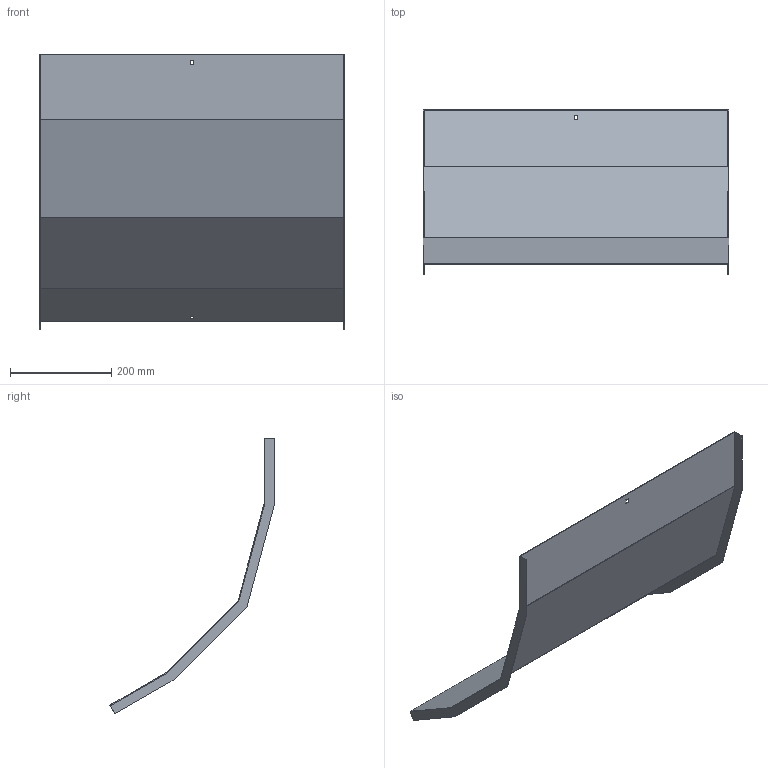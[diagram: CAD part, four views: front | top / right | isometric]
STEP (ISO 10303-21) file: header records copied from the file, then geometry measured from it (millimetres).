
FILE_DESCRIPTION (( 'STEP AP214' ), '1' );
FILE_NAME ('40N5R600_H150.step', '2025-02-21T14:29:15', ( '' ), ( '' ), 'SwSTEP 2.0', 'SolidWorks 2023', '' );
FILE_SCHEMA (( 'AUTOMOTIVE_DESIGN' ));
Length unit declared in the file: millimetre
Products named in the file (1): 40N5R600_H150
Bounding box: 603 x 324.8 x 545.25 mm (x, y, z)
Volume: 632859.2 mm3; surface area: 847860.6 mm2
Topology: 1 solids, 1 shells, 30 faces, 84 edges, 56 vertices
Faces by surface type: plane 30
Entity records: 979 total; most frequent: CARTESIAN_POINT 171, ORIENTED_EDGE 168, DIRECTION 146, VECTOR 84, LINE 84, EDGE_CURVE 84, VERTEX_POINT 56, EDGE_LOOP 34
